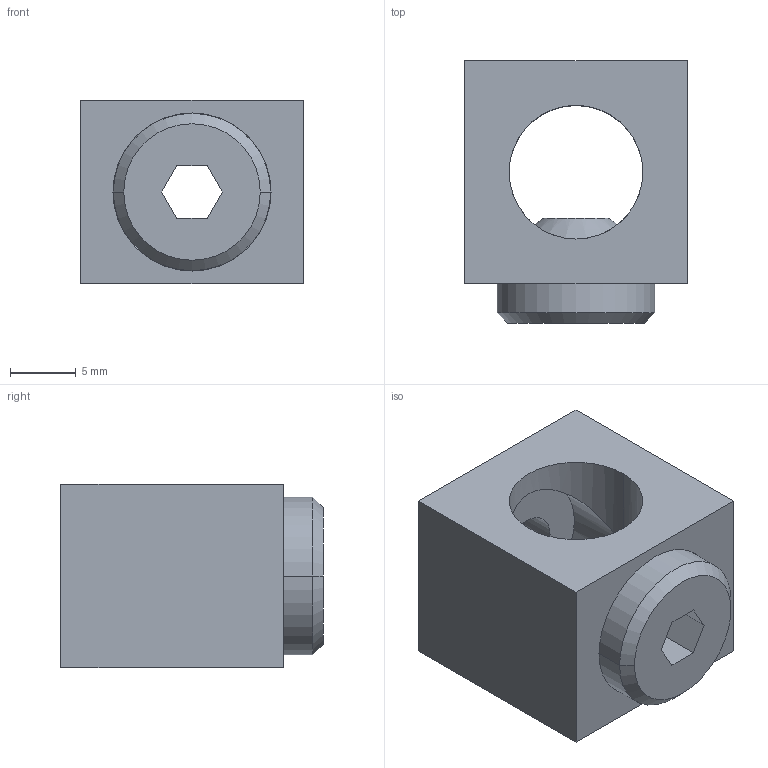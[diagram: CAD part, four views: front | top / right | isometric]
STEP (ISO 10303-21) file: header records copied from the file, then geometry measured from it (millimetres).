
FILE_DESCRIPTION (( 'STEP AP203' ), '1' );
FILE_NAME ('Êîëîäêà ÃÆÈÊ.687229.009.STEP', '2017-03-14T05:47:16', ( 'admin' ), ( '' ), 'SwSTEP 2.0', 'SolidWorks 2012', '' );
FILE_SCHEMA (( 'CONFIG_CONTROL_DESIGN' ));
Length unit declared in the file: millimetre
Products named in the file (3): Êîëîäêà ÃÆÈÊ.731173.009_ƒ†ˆŠ.731173.009; 妈眚 闷仁.758211.008_儐垔.758211.008; Êîëîäêà ÃÆÈÊ.687229.009
Assembly tree (2 placements, depth 2):
  Êîëîäêà ÃÆÈÊ.687229.009
    Êîëîäêà ÃÆÈÊ.731173.009_ƒ†ˆŠ.731173.009
    妈眚 闷仁.758211.008_儐垔.758211.008
Bounding box: 17 x 20 x 14 mm (x, y, z)
Volume: 3046.8 mm3; surface area: 2351.7 mm2
Topology: 2 solids, 2 shells, 33 faces, 82 edges, 52 vertices
Faces by surface type: plane 15, cylinder 10, cone 8
Entity records: 1485 total; most frequent: CARTESIAN_POINT 376, DIRECTION 174, ORIENTED_EDGE 164, EDGE_CURVE 82, AXIS2_PLACEMENT_3D 62, VERTEX_POINT 52, VECTOR 50, LINE 50
